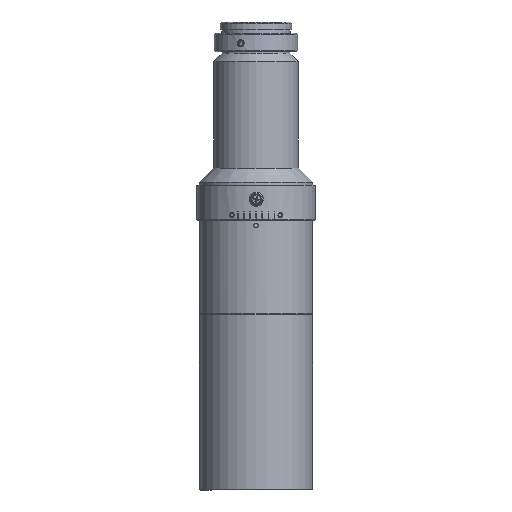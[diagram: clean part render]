
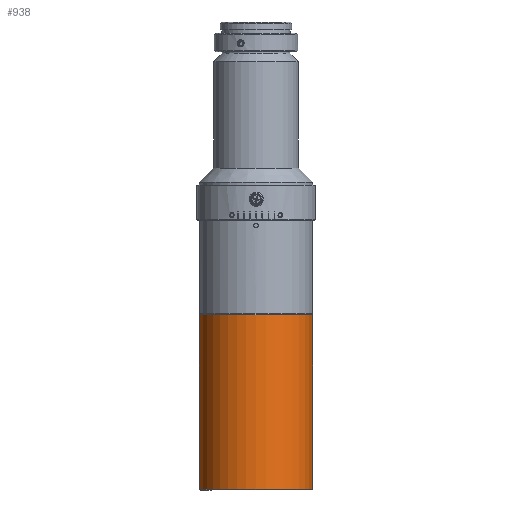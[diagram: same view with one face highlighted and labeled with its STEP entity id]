
A CAD part, front view. The second image highlights one B-rep face of the part: STEP entity #938.
In plain terms, the highlighted cylindrical face has radius 20 mm (diameter 40 mm), a full revolution.
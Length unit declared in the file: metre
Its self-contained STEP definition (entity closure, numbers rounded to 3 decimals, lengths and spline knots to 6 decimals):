
#938=ADVANCED_FACE('NONE',(#2398,#2399),#2400,.T.);
#2398=FACE_OUTER_BOUND('',#4585,.T.);
#2399=FACE_OUTER_BOUND('',#4586,.T.);
#2400=CYLINDRICAL_SURFACE('',#4587,0.02);
#4585=EDGE_LOOP('',(#9505));
#4586=EDGE_LOOP('',(#9506));
#4587=AXIS2_PLACEMENT_3D('',#9507,#9508,#9509);
#9505=ORIENTED_EDGE('',*,*,#13208,.T.);
#9506=ORIENTED_EDGE('',*,*,#13203,.T.);
#9507=CARTESIAN_POINT('',(0.,0.0,-0.16548));
#9508=DIRECTION('',(0.,0.0,-1.0));
#9509=DIRECTION('',(-1.0,0.0,0.));
#13203=EDGE_CURVE('NONE',#15152,#15152,#15153,.T.);
#13208=EDGE_CURVE('NONE',#15160,#15160,#15161,.T.);
#15152=VERTEX_POINT('',#18398);
#15153=CIRCLE('',#18399,0.02);
#15160=VERTEX_POINT('',#18406);
#15161=CIRCLE('',#18407,0.02);
#18398=CARTESIAN_POINT('',(-0.02,0.0,-0.10358));
#18399=AXIS2_PLACEMENT_3D('',#23036,#23037,#23038);
#18406=CARTESIAN_POINT('',(0.02,0.0,-0.16518));
#18407=AXIS2_PLACEMENT_3D('',#23045,#23046,#23047);
#23036=CARTESIAN_POINT('',(0.,0.0,-0.10358));
#23037=DIRECTION('',(0.,0.0,-1.0));
#23038=DIRECTION('',(-1.0,0.0,0.));
#23045=CARTESIAN_POINT('',(0.,0.0,-0.16518));
#23046=DIRECTION('',(0.,0.0,1.0));
#23047=DIRECTION('',(1.0,0.0,0.));
